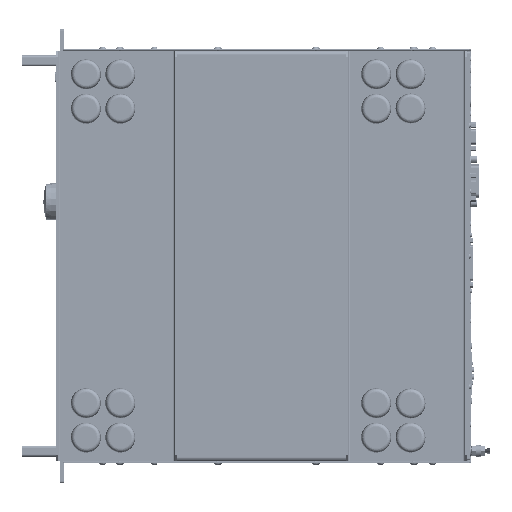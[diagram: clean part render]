
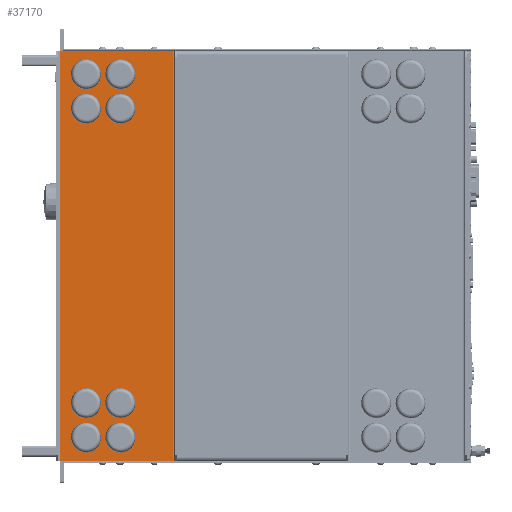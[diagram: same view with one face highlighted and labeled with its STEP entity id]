
A CAD part, front view. The second image highlights one B-rep face of the part: STEP entity #37170.
In plain terms, the highlighted planar face has unit normal (0, -1, 0).
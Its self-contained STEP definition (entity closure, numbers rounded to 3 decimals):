
#37170=ADVANCED_FACE('',(#94074,#94075,#94076,#94077,#94078,#94079,#94080,#94081,#94082),#94083,.T.);
#94074=FACE_OUTER_BOUND('',#173649,.T.);
#94075=FACE_BOUND('',#173650,.T.);
#94076=FACE_BOUND('',#173651,.T.);
#94077=FACE_BOUND('',#173652,.T.);
#94078=FACE_BOUND('',#173653,.T.);
#94079=FACE_BOUND('',#173654,.T.);
#94080=FACE_BOUND('',#173655,.T.);
#94081=FACE_BOUND('',#173656,.T.);
#94082=FACE_BOUND('',#173657,.T.);
#94083=PLANE('',#173658);
#173649=EDGE_LOOP('',(#311448,#311449,#311450,#311451));
#173650=EDGE_LOOP('',(#311452,#311453));
#173651=EDGE_LOOP('',(#311454,#311455));
#173652=EDGE_LOOP('',(#311456,#311457));
#173653=EDGE_LOOP('',(#311458,#311459));
#173654=EDGE_LOOP('',(#311460,#311461));
#173655=EDGE_LOOP('',(#311462,#311463));
#173656=EDGE_LOOP('',(#311464,#311465));
#173657=EDGE_LOOP('',(#311466,#311467));
#173658=AXIS2_PLACEMENT_3D('',#311468,#311469,#311470);
#311448=ORIENTED_EDGE('',*,*,#504277,.F.);
#311449=ORIENTED_EDGE('',*,*,#504307,.T.);
#311450=ORIENTED_EDGE('',*,*,#504281,.F.);
#311451=ORIENTED_EDGE('',*,*,#504359,.T.);
#311452=ORIENTED_EDGE('',*,*,#504254,.T.);
#311453=ORIENTED_EDGE('',*,*,#504343,.T.);
#311454=ORIENTED_EDGE('',*,*,#504249,.T.);
#311455=ORIENTED_EDGE('',*,*,#504345,.T.);
#311456=ORIENTED_EDGE('',*,*,#504244,.T.);
#311457=ORIENTED_EDGE('',*,*,#504347,.T.);
#311458=ORIENTED_EDGE('',*,*,#504239,.T.);
#311459=ORIENTED_EDGE('',*,*,#504349,.T.);
#311460=ORIENTED_EDGE('',*,*,#504234,.T.);
#311461=ORIENTED_EDGE('',*,*,#504351,.T.);
#311462=ORIENTED_EDGE('',*,*,#504229,.T.);
#311463=ORIENTED_EDGE('',*,*,#504353,.T.);
#311464=ORIENTED_EDGE('',*,*,#504224,.T.);
#311465=ORIENTED_EDGE('',*,*,#504355,.T.);
#311466=ORIENTED_EDGE('',*,*,#504219,.T.);
#311467=ORIENTED_EDGE('',*,*,#504357,.T.);
#311468=CARTESIAN_POINT('',(101.723,17.,241.298));
#311469=DIRECTION('',(0.,-1.0,0.));
#311470=DIRECTION('',(0.,0.,-1.0));
#504219=EDGE_CURVE('',#597296,#597300,#597302,.T.);
#504224=EDGE_CURVE('',#597305,#597309,#597311,.T.);
#504229=EDGE_CURVE('',#597314,#597318,#597320,.T.);
#504234=EDGE_CURVE('',#597323,#597327,#597329,.T.);
#504239=EDGE_CURVE('',#597332,#597336,#597338,.T.);
#504244=EDGE_CURVE('',#597341,#597345,#597347,.T.);
#504249=EDGE_CURVE('',#597350,#597354,#597356,.T.);
#504254=EDGE_CURVE('',#597359,#597363,#597365,.T.);
#504277=EDGE_CURVE('',#597403,#597405,#597406,.T.);
#504281=EDGE_CURVE('',#597409,#597411,#597412,.T.);
#504307=EDGE_CURVE('',#597403,#597411,#597451,.T.);
#504343=EDGE_CURVE('',#597363,#597359,#597494,.T.);
#504345=EDGE_CURVE('',#597354,#597350,#597496,.T.);
#504347=EDGE_CURVE('',#597345,#597341,#597498,.T.);
#504349=EDGE_CURVE('',#597336,#597332,#597500,.T.);
#504351=EDGE_CURVE('',#597327,#597323,#597502,.T.);
#504353=EDGE_CURVE('',#597318,#597314,#597504,.T.);
#504355=EDGE_CURVE('',#597309,#597305,#597506,.T.);
#504357=EDGE_CURVE('',#597300,#597296,#597508,.T.);
#504359=EDGE_CURVE('',#597409,#597405,#597510,.T.);
#597296=VERTEX_POINT('',#728867);
#597300=VERTEX_POINT('',#728872);
#597302=CIRCLE('',#728875,3.0);
#597305=VERTEX_POINT('',#728878);
#597309=VERTEX_POINT('',#728883);
#597311=CIRCLE('',#728886,3.0);
#597314=VERTEX_POINT('',#728889);
#597318=VERTEX_POINT('',#728894);
#597320=CIRCLE('',#728897,3.0);
#597323=VERTEX_POINT('',#728900);
#597327=VERTEX_POINT('',#728905);
#597329=CIRCLE('',#728908,3.0);
#597332=VERTEX_POINT('',#728911);
#597336=VERTEX_POINT('',#728916);
#597338=CIRCLE('',#728919,3.0);
#597341=VERTEX_POINT('',#728922);
#597345=VERTEX_POINT('',#728927);
#597347=CIRCLE('',#728930,3.0);
#597350=VERTEX_POINT('',#728933);
#597354=VERTEX_POINT('',#728938);
#597356=CIRCLE('',#728941,3.0);
#597359=VERTEX_POINT('',#728944);
#597363=VERTEX_POINT('',#728949);
#597365=CIRCLE('',#728952,3.0);
#597403=VERTEX_POINT('',#728998);
#597405=VERTEX_POINT('',#729000);
#597406=LINE('',#729001,#729002);
#597409=VERTEX_POINT('',#729005);
#597411=VERTEX_POINT('',#729007);
#597412=LINE('',#729008,#729009);
#597451=LINE('',#729063,#729064);
#597494=CIRCLE('',#729124,3.0);
#597496=CIRCLE('',#729126,3.0);
#597498=CIRCLE('',#729128,3.0);
#597500=CIRCLE('',#729130,3.0);
#597502=CIRCLE('',#729132,3.0);
#597504=CIRCLE('',#729134,3.0);
#597506=CIRCLE('',#729136,3.0);
#597508=CIRCLE('',#729138,3.0);
#597510=LINE('',#729140,#729141);
#728867=CARTESIAN_POINT('',(105.88,17.,431.725));
#728872=CARTESIAN_POINT('',(105.88,17.,437.725));
#728875=AXIS2_PLACEMENT_3D('',#891700,#891701,#891702);
#728878=CARTESIAN_POINT('',(105.88,17.,395.097));
#728883=CARTESIAN_POINT('',(105.88,17.,401.097));
#728886=AXIS2_PLACEMENT_3D('',#891708,#891709,#891710);
#728889=CARTESIAN_POINT('',(69.252,17.,431.725));
#728894=CARTESIAN_POINT('',(69.252,17.,437.725));
#728897=AXIS2_PLACEMENT_3D('',#891716,#891717,#891718);
#728900=CARTESIAN_POINT('',(69.252,17.,395.097));
#728905=CARTESIAN_POINT('',(69.252,17.,401.097));
#728908=AXIS2_PLACEMENT_3D('',#891724,#891725,#891726);
#728911=CARTESIAN_POINT('',(105.88,17.,81.498));
#728916=CARTESIAN_POINT('',(105.88,17.,87.498));
#728919=AXIS2_PLACEMENT_3D('',#891732,#891733,#891734);
#728922=CARTESIAN_POINT('',(105.88,17.,44.87));
#728927=CARTESIAN_POINT('',(105.88,17.,50.87));
#728930=AXIS2_PLACEMENT_3D('',#891740,#891741,#891742);
#728933=CARTESIAN_POINT('',(69.252,17.,81.498));
#728938=CARTESIAN_POINT('',(69.252,17.,87.498));
#728941=AXIS2_PLACEMENT_3D('',#891748,#891749,#891750);
#728944=CARTESIAN_POINT('',(69.252,17.,44.87));
#728949=CARTESIAN_POINT('',(69.252,17.,50.87));
#728952=AXIS2_PLACEMENT_3D('',#891756,#891757,#891758);
#728998=CARTESIAN_POINT('',(161.88,17.,459.725));
#729000=CARTESIAN_POINT('',(161.88,17.,22.87));
#729001=CARTESIAN_POINT('',(161.88,17.,241.298));
#729002=VECTOR('',#891794,1.0);
#729005=CARTESIAN_POINT('',(41.566,17.,22.87));
#729007=CARTESIAN_POINT('',(41.566,17.,459.725));
#729008=CARTESIAN_POINT('',(41.566,17.,241.298));
#729009=VECTOR('',#891801,1.0);
#729063=CARTESIAN_POINT('',(101.723,17.,459.725));
#729064=VECTOR('',#891832,1.0);
#729124=AXIS2_PLACEMENT_3D('',#891874,#891875,#891876);
#729126=AXIS2_PLACEMENT_3D('',#891877,#891878,#891879);
#729128=AXIS2_PLACEMENT_3D('',#891880,#891881,#891882);
#729130=AXIS2_PLACEMENT_3D('',#891883,#891884,#891885);
#729132=AXIS2_PLACEMENT_3D('',#891886,#891887,#891888);
#729134=AXIS2_PLACEMENT_3D('',#891889,#891890,#891891);
#729136=AXIS2_PLACEMENT_3D('',#891892,#891893,#891894);
#729138=AXIS2_PLACEMENT_3D('',#891895,#891896,#891897);
#729140=CARTESIAN_POINT('',(101.723,17.,22.87));
#729141=VECTOR('',#891898,1.0);
#891700=CARTESIAN_POINT('',(105.88,17.,434.725));
#891701=DIRECTION('',(0.,1.0,0.));
#891702=DIRECTION('',(0.,0.,-1.0));
#891708=CARTESIAN_POINT('',(105.88,17.,398.097));
#891709=DIRECTION('',(0.,1.0,0.));
#891710=DIRECTION('',(0.,0.,-1.0));
#891716=CARTESIAN_POINT('',(69.252,17.,434.725));
#891717=DIRECTION('',(0.,1.0,0.));
#891718=DIRECTION('',(0.,0.,-1.0));
#891724=CARTESIAN_POINT('',(69.252,17.,398.097));
#891725=DIRECTION('',(0.,1.0,0.));
#891726=DIRECTION('',(0.,0.,-1.0));
#891732=CARTESIAN_POINT('',(105.88,17.,84.498));
#891733=DIRECTION('',(0.,1.0,0.));
#891734=DIRECTION('',(0.,0.,-1.0));
#891740=CARTESIAN_POINT('',(105.88,17.,47.87));
#891741=DIRECTION('',(0.,1.0,0.));
#891742=DIRECTION('',(0.,0.,-1.0));
#891748=CARTESIAN_POINT('',(69.252,17.,84.498));
#891749=DIRECTION('',(0.,1.0,0.));
#891750=DIRECTION('',(0.,0.,-1.0));
#891756=CARTESIAN_POINT('',(69.252,17.,47.87));
#891757=DIRECTION('',(0.,1.0,0.));
#891758=DIRECTION('',(0.,0.,-1.0));
#891794=DIRECTION('',(0.0,0.0,-1.0));
#891801=DIRECTION('',(0.0,0.0,1.0));
#891832=DIRECTION('',(-1.0,0.0,0.0));
#891874=CARTESIAN_POINT('',(69.252,17.,47.87));
#891875=DIRECTION('',(0.,1.0,0.));
#891876=DIRECTION('',(0.,0.,-1.0));
#891877=CARTESIAN_POINT('',(69.252,17.,84.498));
#891878=DIRECTION('',(0.,1.0,0.));
#891879=DIRECTION('',(0.,0.,-1.0));
#891880=CARTESIAN_POINT('',(105.88,17.,47.87));
#891881=DIRECTION('',(0.,1.0,0.));
#891882=DIRECTION('',(0.,0.,-1.0));
#891883=CARTESIAN_POINT('',(105.88,17.,84.498));
#891884=DIRECTION('',(0.,1.0,0.));
#891885=DIRECTION('',(0.,0.,-1.0));
#891886=CARTESIAN_POINT('',(69.252,17.,398.097));
#891887=DIRECTION('',(0.,1.0,0.));
#891888=DIRECTION('',(0.,0.,-1.0));
#891889=CARTESIAN_POINT('',(69.252,17.,434.725));
#891890=DIRECTION('',(0.,1.0,0.));
#891891=DIRECTION('',(0.,0.,-1.0));
#891892=CARTESIAN_POINT('',(105.88,17.,398.097));
#891893=DIRECTION('',(0.,1.0,0.));
#891894=DIRECTION('',(0.,0.,-1.0));
#891895=CARTESIAN_POINT('',(105.88,17.,434.725));
#891896=DIRECTION('',(0.,1.0,0.));
#891897=DIRECTION('',(0.,0.,-1.0));
#891898=DIRECTION('',(1.0,0.0,0.0));
